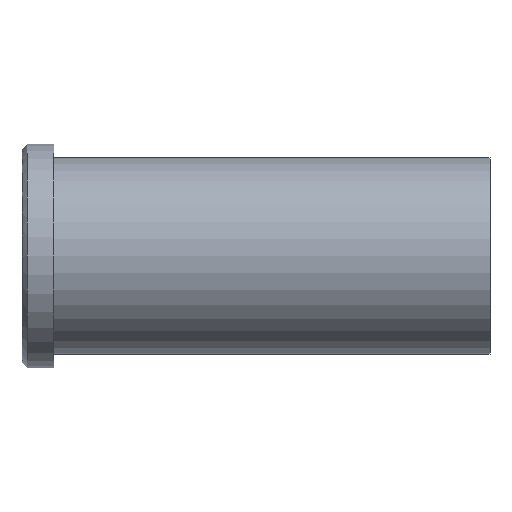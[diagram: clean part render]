
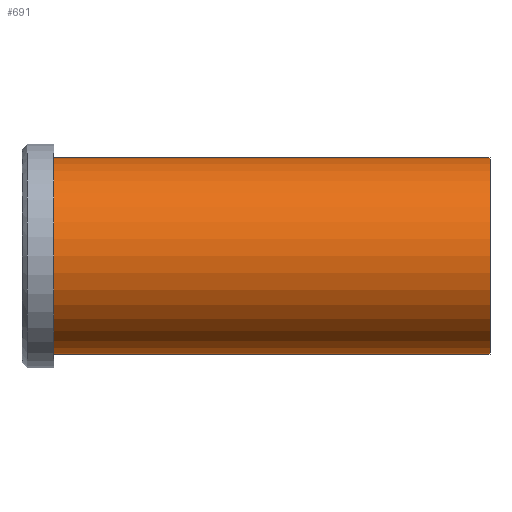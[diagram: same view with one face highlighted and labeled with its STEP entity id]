
A CAD part, front view. The second image highlights one B-rep face of the part: STEP entity #691.
In plain terms, the highlighted cylindrical face has radius 37 mm (diameter 74 mm), a partial arc.
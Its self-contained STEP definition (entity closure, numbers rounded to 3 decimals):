
#501=CARTESIAN_POINT('Vertex',(0.,0.,-37.)) ;
#506=CARTESIAN_POINT('Axis2P3D Location',(0.,0.,0.)) ;
#510=CARTESIAN_POINT('Vertex',(0.,-37.,0.)) ;
#513=CARTESIAN_POINT('Axis2P3D Location',(0.,0.,0.)) ;
#517=CARTESIAN_POINT('Vertex',(0.,0.,37.)) ;
#631=CARTESIAN_POINT('Line Origine',(164.,0.,37.)) ;
#635=CARTESIAN_POINT('Vertex',(164.,0.,37.)) ;
#649=CARTESIAN_POINT('Vertex',(164.,0.,-37.)) ;
#652=CARTESIAN_POINT('Line Origine',(164.,0.,-37.)) ;
#666=CARTESIAN_POINT('Axis2P3D Location',(164.,0.,0.)) ;
#671=CARTESIAN_POINT('Axis2P3D Location',(164.,0.,0.)) ;
#675=CARTESIAN_POINT('Vertex',(164.,-37.,0.)) ;
#678=CARTESIAN_POINT('Axis2P3D Location',(164.,0.,0.)) ;
#507=DIRECTION('Axis2P3D Direction',(1.,0.,-0.)) ;
#514=DIRECTION('Axis2P3D Direction',(1.,0.,-0.)) ;
#632=DIRECTION('Vector Direction',(-1.,0.,0.)) ;
#653=DIRECTION('Vector Direction',(-1.,0.,0.)) ;
#667=DIRECTION('Axis2P3D Direction',(-1.,-0.,-0.)) ;
#668=DIRECTION('Axis2P3D XDirection',(0.,0.,-1.)) ;
#672=DIRECTION('Axis2P3D Direction',(-1.,-0.,-0.)) ;
#679=DIRECTION('Axis2P3D Direction',(-1.,-0.,-0.)) ;
#508=AXIS2_PLACEMENT_3D('Circle Axis2P3D',#506,#507,$) ;
#515=AXIS2_PLACEMENT_3D('Circle Axis2P3D',#513,#514,$) ;
#669=AXIS2_PLACEMENT_3D('Cylinder Axis2P3D',#666,#667,#668) ;
#673=AXIS2_PLACEMENT_3D('Circle Axis2P3D',#671,#672,$) ;
#680=AXIS2_PLACEMENT_3D('Circle Axis2P3D',#678,#679,$) ;
#684=ORIENTED_EDGE('',*,*,#656,.T.) ;
#685=ORIENTED_EDGE('',*,*,#677,.F.) ;
#686=ORIENTED_EDGE('',*,*,#682,.F.) ;
#687=ORIENTED_EDGE('',*,*,#637,.T.) ;
#688=ORIENTED_EDGE('',*,*,#519,.T.) ;
#689=ORIENTED_EDGE('',*,*,#512,.T.) ;
#633=VECTOR('Line Direction',#632,1.) ;
#654=VECTOR('Line Direction',#653,1.) ;
#691=ADVANCED_FACE('353-60x176',(#690),#670,.T.) ;
#509=CIRCLE('generated circle',#508,37.) ;
#516=CIRCLE('generated circle',#515,37.) ;
#674=CIRCLE('generated circle',#673,37.) ;
#681=CIRCLE('generated circle',#680,37.) ;
#670=CYLINDRICAL_SURFACE('generated cylinder',#669,37.) ;
#512=EDGE_CURVE('',#511,#502,#509,.T.) ;
#519=EDGE_CURVE('',#518,#511,#516,.T.) ;
#637=EDGE_CURVE('',#636,#518,#634,.T.) ;
#656=EDGE_CURVE('',#502,#650,#655,.F.) ;
#677=EDGE_CURVE('',#676,#650,#674,.F.) ;
#682=EDGE_CURVE('',#636,#676,#681,.F.) ;
#683=EDGE_LOOP('',(#684,#685,#686,#687,#688,#689)) ;
#690=FACE_OUTER_BOUND('',#683,.T.) ;
#634=LINE('Line',#631,#633) ;
#655=LINE('Line',#652,#654) ;
#502=VERTEX_POINT('',#501) ;
#511=VERTEX_POINT('',#510) ;
#518=VERTEX_POINT('',#517) ;
#636=VERTEX_POINT('',#635) ;
#650=VERTEX_POINT('',#649) ;
#676=VERTEX_POINT('',#675) ;
